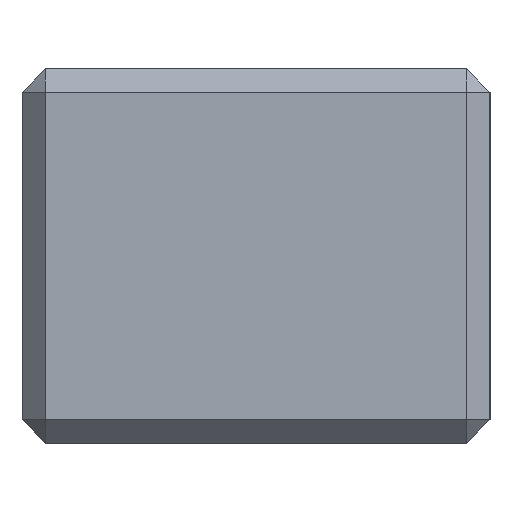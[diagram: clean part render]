
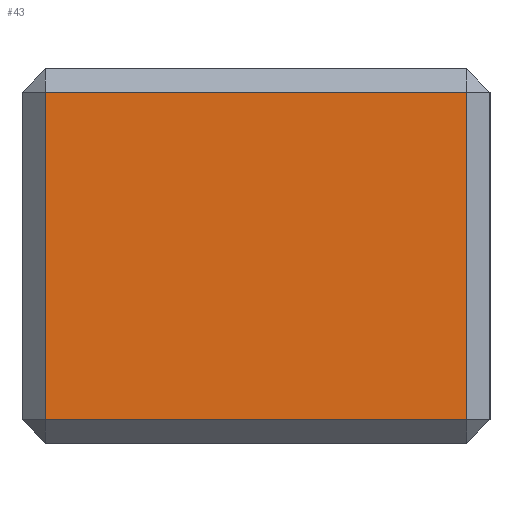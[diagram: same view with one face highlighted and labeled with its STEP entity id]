
A CAD part, left-side view. The second image highlights one B-rep face of the part: STEP entity #43.
In plain terms, the highlighted planar face has unit normal (-1, 0, 0).
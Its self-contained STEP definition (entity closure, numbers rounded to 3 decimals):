
#21 = VECTOR ( 'NONE', #41, 1000. ) ;
#24 = CARTESIAN_POINT ( 'NONE',  ( -40., -10., 16. ) ) ;
#27 = EDGE_CURVE ( 'NONE', #358, #361, #255, .T. ) ;
#40 = EDGE_LOOP ( 'NONE', ( #240, #714, #273, #505 ) ) ;
#41 = DIRECTION ( 'NONE',  ( 0., -1., 0. ) ) ;
#43 = ADVANCED_FACE ( 'NONE', ( #696 ), #51, .F. ) ;
#51 = PLANE ( 'NONE',  #536 ) ;
#59 = VECTOR ( 'NONE', #931, 1000. ) ;
#178 = LINE ( 'NONE', #1141, #847 ) ;
#187 = CARTESIAN_POINT ( 'NONE',  ( -40., -10., 1. ) ) ;
#240 = ORIENTED_EDGE ( 'NONE', *, *, #332, .T. ) ;
#255 = LINE ( 'NONE', #187, #21 ) ;
#261 = CARTESIAN_POINT ( 'NONE',  ( -40., 9., 1. ) ) ;
#273 = ORIENTED_EDGE ( 'NONE', *, *, #1059, .T. ) ;
#332 = EDGE_CURVE ( 'NONE', #1074, #358, #712, .T. ) ;
#358 = VERTEX_POINT ( 'NONE', #261 ) ;
#361 = VERTEX_POINT ( 'NONE', #1011 ) ;
#375 = DIRECTION ( 'NONE',  ( 0., 0., -1. ) ) ;
#430 = VECTOR ( 'NONE', #890, 1000. ) ;
#450 = EDGE_CURVE ( 'NONE', #752, #1074, #178, .T. ) ;
#505 = ORIENTED_EDGE ( 'NONE', *, *, #450, .T. ) ;
#515 = LINE ( 'NONE', #878, #59 ) ;
#536 = AXIS2_PLACEMENT_3D ( 'NONE', #24, #1123, #375 ) ;
#696 = FACE_OUTER_BOUND ( 'NONE', #40, .T. ) ;
#712 = LINE ( 'NONE', #979, #430 ) ;
#714 = ORIENTED_EDGE ( 'NONE', *, *, #27, .T. ) ;
#752 = VERTEX_POINT ( 'NONE', #1154 ) ;
#847 = VECTOR ( 'NONE', #1077, 1000. ) ;
#878 = CARTESIAN_POINT ( 'NONE',  ( -40., -9., 16. ) ) ;
#890 = DIRECTION ( 'NONE',  ( 0., 0., -1. ) ) ;
#931 = DIRECTION ( 'NONE',  ( 0., 0., 1. ) ) ;
#938 = CARTESIAN_POINT ( 'NONE',  ( -40., 9., 15. ) ) ;
#979 = CARTESIAN_POINT ( 'NONE',  ( -40., 9., 16. ) ) ;
#1011 = CARTESIAN_POINT ( 'NONE',  ( -40., -9., 1. ) ) ;
#1059 = EDGE_CURVE ( 'NONE', #361, #752, #515, .T. ) ;
#1074 = VERTEX_POINT ( 'NONE', #938 ) ;
#1077 = DIRECTION ( 'NONE',  ( 0., 1., 0. ) ) ;
#1123 = DIRECTION ( 'NONE',  ( 1., 0., 0. ) ) ;
#1141 = CARTESIAN_POINT ( 'NONE',  ( -40., 10., 15. ) ) ;
#1154 = CARTESIAN_POINT ( 'NONE',  ( -40., -9., 15. ) ) ;
